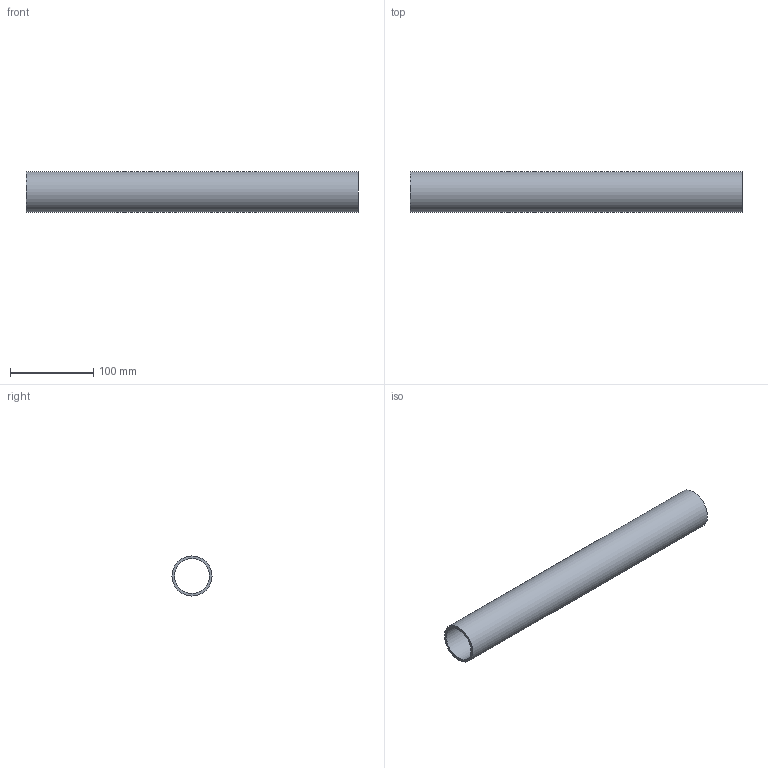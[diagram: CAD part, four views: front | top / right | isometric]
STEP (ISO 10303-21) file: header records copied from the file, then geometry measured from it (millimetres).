
FILE_DESCRIPTION(('Open CASCADE Model'),'2;1');
FILE_NAME('Open CASCADE Shape Model','2016-07-06T15:33:59',('Author'),( 'Open CASCADE'),'Open CASCADE STEP processor 6.8','Open CASCADE 6.8' ,'Unknown');
FILE_SCHEMA(('AUTOMOTIVE_DESIGN_CC2 { 1 2 10303 214 -1 1 5 4 }'));
Length unit declared in the file: millimetre
Products named in the file (1): Open CASCADE STEP translator 6.8 1
Bounding box: 400 x 48.3 x 48.3 mm (x, y, z)
Volume: 181357.9 mm3; surface area: 114255.5 mm2
Topology: 1 solids, 1 shells, 4 faces, 6 edges, 4 vertices
Faces by surface type: cylinder 2, plane 2
Full cylindrical faces by diameter (mm): 41.9 x1, 48.3 x1
Entity records: 190 total; most frequent: CARTESIAN_POINT 59, DIRECTION 20, ORIENTED_EDGE 12, PCURVE 12, DEFINITIONAL_REPRESENTATION 12, AXIS2_PLACEMENT_3D 9, B_SPLINE_CURVE_WITH_KNOTS 8, FACE_BOUND 6
